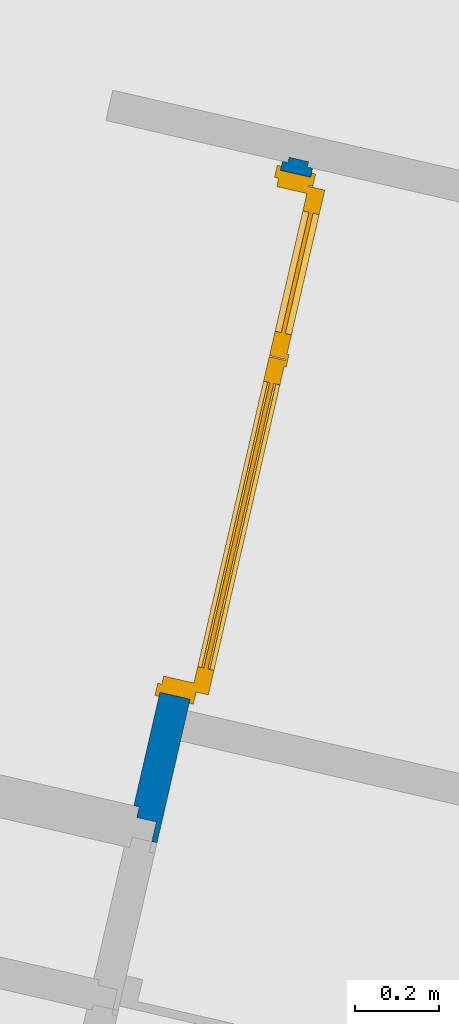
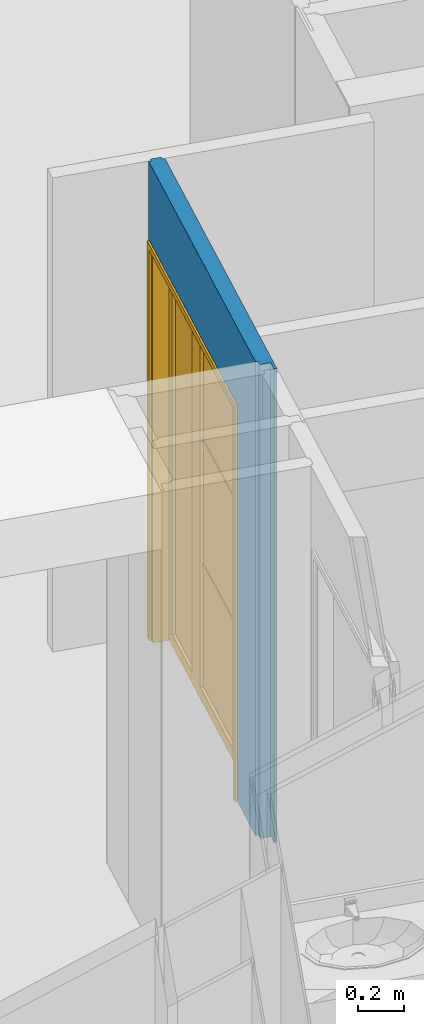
# One storey, part 29 of 91: 1 door, 1 wall, 1 opening.
"""IFC2X3 building model written with IfcOpenShell, lengths in metres."""

from ifc_helpers import new_model, entity, si_unit, converted_unit, derived_unit, money_unit, direction, frame, origin_with_axes, place, context, subcontext, project, spatial, faceted_brep, source, transform, mapped, material, material_list, type_object, element, fill, save


model = new_model("IFC2X3")

# Units and contexts
model_context = context("Model", 3, precision=1e-05, world=origin_with_axes(), true_north=direction((0.0, 1.0)))
body_context = subcontext(model_context, "Body", "Model", "MODEL_VIEW")
ifc_project = project(units=[si_unit("LENGTHUNIT", "METRE"), si_unit("AREAUNIT", "SQUARE_METRE"), si_unit("VOLUMEUNIT", "CUBIC_METRE"), converted_unit("PLANEANGLEUNIT", "DEGREE", entity("IfcPlaneAngleMeasure", 0.0174532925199), si_unit("PLANEANGLEUNIT", "RADIAN"), dimensions=[0, 0, 0, 0, 0, 0, 0]), si_unit("SOLIDANGLEUNIT", "STERADIAN"), money_unit("EUR"), converted_unit("TIMEUNIT", "Year", entity("IfcTimeMeasure", 31556926.0), si_unit("TIMEUNIT", "SECOND"), dimensions=[0, 0, 1, 0, 0, 0, 0]), si_unit("MASSUNIT", "GRAM", prefix="KILO"), si_unit("THERMODYNAMICTEMPERATUREUNIT", "DEGREE_CELSIUS"), si_unit("LUMINOUSINTENSITYUNIT", "LUMEN"), si_unit("ENERGYUNIT", "JOULE", prefix="MEGA"), derived_unit("THERMALCONDUCTANCEUNIT", [(si_unit("POWERUNIT", "WATT"), 1), (si_unit("LENGTHUNIT", "METRE"), -1), (si_unit("THERMODYNAMICTEMPERATUREUNIT", "KELVIN"), -1)]), derived_unit("SPECIFICHEATCAPACITYUNIT", [(si_unit("ENERGYUNIT", "JOULE"), 1), (si_unit("MASSUNIT", "GRAM", prefix="KILO"), -1), (si_unit("THERMODYNAMICTEMPERATUREUNIT", "KELVIN"), -1)]), derived_unit("MASSDENSITYUNIT", [(si_unit("MASSUNIT", "GRAM", prefix="KILO"), 1), (si_unit("VOLUMEUNIT", "CUBIC_METRE"), -1)])], contexts=[model_context])

# Site, building, storey
site_placement = place(None, origin_with_axes())
site = spatial("IfcSite", under=ifc_project, at=site_placement, Name="Site", CompositionType="ELEMENT")
building_placement = place(site_placement, origin_with_axes())
building = spatial("IfcBuilding", under=site, at=building_placement, Name="Bâtiment", CompositionType="ELEMENT")
storey_placement = place(building_placement, frame((0.0, 0.0, 5.44), z_axis=(0.0, 0.0, 1.0), x_axis=(1.0, 0.0, 0.0)))
storey = spatial("IfcBuildingStorey", under=building, at=storey_placement, Name="R+2", CompositionType="ELEMENT", Elevation=5.44)

# Wall, opening, door
ifc_material_1 = material(Name="Finition int - Plaque de plâtre")
ifc_material_2 = material(Name="Isolation - Laine de roche")
ifc_material_list = material_list([ifc_material_1, ifc_material_2, ifc_material_1])
wall_type = type_object("IfcWallType", Name="3 - Cloison 72mm Placostil 74", PredefinedType="USERDEFINED")
wall_placement = place(storey_placement, frame((-5.19772895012, 13.9114875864, 0.0), z_axis=(0.0, 0.0, 1.0), x_axis=(-0.224876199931, -0.97438734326, 0.0)))
wall = element("IfcWall", 1, at=wall_placement, inside=storey, type_object=wall_type, material=ifc_material_list, Name="Cloison Placostil 72/48", ObjectType="PARTITIONING", context=body_context, shape_type="Brep", body=[
    faceted_brep([(1.30209647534, 0.074, 0.0), (1.30209647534, 0.074, 2.08), (0.0220964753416, 0.074, 2.08), (0.0220964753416, 0.074, 0.0), (0.0, 0.074, 0.0), (0.0, 0.074, 2.5), (1.6539999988, 0.074, 2.5), (1.6539999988, 0.074, 0.0), (1.30209647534, 0.061, 0.0), (1.30209647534, 0.061, 2.08), (0.0220964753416, 0.061, 2.08), (0.0220964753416, 0.061, 0.0), (0.0, 0.061, 0.0), (0.0, 0.061, 2.5), (1.6539999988, 0.061, 2.5), (1.6539999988, 0.061, 0.0)], [[[0, 1, 2, 3, 4, 5, 6, 7]], [[1, 0, 8, 9]], [[2, 1, 9, 10]], [[3, 2, 10, 11]], [[3, 11, 12, 4]], [[5, 4, 12, 13]], [[14, 6, 5, 13]], [[15, 7, 6, 14]], [[8, 0, 7, 15]], [[9, 8, 15, 14, 13, 12, 11, 10]]]),
    faceted_brep([(1.30209647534, 0.061, 0.0), (1.30209647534, 0.061, 2.08), (0.0220964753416, 0.061, 2.08), (0.0220964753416, 0.061, 0.0), (-0.013000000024, 0.061, 0.0), (-0.013000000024, 0.061, 2.5), (1.6059999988, 0.061, 2.5), (1.6059999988, 0.061, 0.0), (1.30209647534, 0.013, 0.0), (1.30209647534, 0.013, 2.08), (0.0220964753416, 0.013, 2.08), (0.0220964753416, 0.013, 0.0), (-0.0130000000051, 0.013, 0.0), (-0.0130000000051, 0.013, 2.5), (1.60599999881, 0.013, 2.5), (1.60599999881, 0.013, 0.0)], [[[0, 1, 2, 3, 4, 5, 6, 7]], [[1, 0, 8, 9]], [[2, 1, 9, 10]], [[3, 2, 10, 11]], [[3, 11, 12, 4]], [[4, 12, 13, 5]], [[6, 5, 13, 14]], [[7, 6, 14, 15]], [[8, 0, 7, 15]], [[9, 8, 15, 14, 13, 12, 11, 10]]]),
    faceted_brep([(1.30209647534, 0.013, 0.0), (1.30209647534, 0.013, 2.08), (0.0220964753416, 0.013, 2.08), (0.0220964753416, 0.013, 0.0), (0.0, 0.013, 0.0), (0.0, 0.013, 2.5), (1.57999999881, 0.013, 2.5), (1.57999999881, 0.013, 0.0), (1.30209647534, 0.0, 0.0), (1.30209647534, 0.0, 2.08), (0.0220964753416, 0.0, 2.08), (0.0220964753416, 0.0, 0.0), (0.0, 0.0, 0.0), (0.0, 0.0, 2.5), (1.57999999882, 0.0, 2.5), (1.57999999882, 0.0, 0.0)], [[[0, 1, 2, 3, 4, 5, 6, 7]], [[1, 0, 8, 9]], [[2, 1, 9, 10]], [[3, 2, 10, 11]], [[3, 11, 12, 4]], [[4, 12, 13, 5]], [[6, 5, 13, 14]], [[7, 6, 14, 15]], [[8, 0, 7, 15]], [[9, 8, 15, 14, 13, 12, 11, 10]]]),
])
opening_placement = place(wall_placement, frame((0.662096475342, 0.0, 0.0), z_axis=(0.0, 0.0, 1.0), x_axis=(1.0, 0.0, 0.0)))
opening = element("IfcOpeningElement", 2, at=opening_placement, cuts=wall, Name="Por-002", context=body_context, shape_type="Brep", body=[
    faceted_brep([(0.64, -0.074, 0.0), (-0.64, -0.074, 0.0), (-0.64, 0.074, 0.0), (0.64, 0.074, 0.0), (0.64, -0.074, 2.08), (-0.64, -0.074, 2.08), (-0.64, 0.074, 2.08), (0.64, 0.074, 2.08)], [[[0, 1, 2, 3]], [[0, 4, 5, 1]], [[1, 5, 6, 2]], [[3, 2, 6, 7]], [[4, 0, 3, 7]], [[5, 4, 7, 6]]]),
])
door_style = type_object("IfcDoorStyle", Name="Porte int générique 2019", ConstructionType="NOTDEFINED", OperationType="DOUBLE_DOOR_SINGLE_SWING", ParameterTakesPrecedence=False, Sizeable=False)
shared_shape = source(origin_with_axes(), body_context, "Body", "Brep", [
    faceted_brep([(0.64, -0.006, 0.0), (0.6, -0.006, 0.0), (0.6, -0.006, 2.04), (-0.6, -0.006, 2.04), (-0.6, -0.006, 0.0), (-0.64, -0.006, 0.0), (-0.64, -0.006, 2.08), (0.64, -0.006, 2.08), (0.64, -0.08, 0.0), (0.6, -0.08, 0.0), (0.6, -0.08, 2.04), (-0.6, -0.08, 2.04), (-0.6, -0.08, 0.0), (-0.64, -0.08, 0.0), (-0.64, -0.08, 2.08), (0.64, -0.08, 2.08)], [[[0, 1, 2, 3, 4, 5, 6, 7]], [[0, 8, 9, 1]], [[1, 9, 10, 2]], [[2, 10, 11, 3]], [[3, 11, 12, 4]], [[5, 4, 12, 13]], [[14, 6, 5, 13]], [[15, 7, 6, 14]], [[8, 0, 7, 15]], [[9, 8, 15, 14, 13, 12, 11, 10]]]),
    faceted_brep([(0.65, -0.006, 0.0), (0.65, 0.004, 0.0), (0.65, 0.004, 2.09), (0.65, -0.006, 2.09), (0.62, -0.006, 0.0), (0.62, 0.004, 0.0), (0.62, 0.004, 2.06), (-0.62, 0.004, 2.06), (-0.62, 0.004, 0.0), (-0.65, 0.004, 0.0), (-0.65, 0.004, 2.09), (-0.65, -0.006, 2.09), (-0.65, -0.006, 0.0), (-0.62, -0.006, 0.0), (-0.62, -0.006, 2.06), (0.62, -0.006, 2.06)], [[[0, 1, 2, 3]], [[0, 4, 5, 1]], [[1, 5, 6, 7, 8, 9, 10, 2]], [[3, 2, 10, 11]], [[4, 0, 3, 11, 12, 13, 14, 15]], [[5, 4, 15, 6]], [[6, 15, 14, 7]], [[7, 14, 13, 8]], [[12, 9, 8, 13]], [[11, 10, 9, 12]]]),
    faceted_brep([(0.65, -0.09, 0.0), (0.65, -0.08, 0.0), (0.65, -0.08, 2.09), (0.65, -0.09, 2.09), (0.62, -0.09, 0.0), (0.62, -0.08, 0.0), (0.62, -0.08, 2.06), (-0.62, -0.08, 2.06), (-0.62, -0.08, 0.0), (-0.65, -0.08, 0.0), (-0.65, -0.08, 2.09), (-0.65, -0.09, 2.09), (-0.65, -0.09, 0.0), (-0.62, -0.09, 0.0), (-0.62, -0.09, 2.06), (0.62, -0.09, 2.06)], [[[0, 1, 2, 3]], [[0, 4, 5, 1]], [[1, 5, 6, 7, 8, 9, 10, 2]], [[3, 2, 10, 11]], [[4, 0, 3, 11, 12, 13, 14, 15]], [[5, 4, 15, 6]], [[6, 15, 14, 7]], [[7, 14, 13, 8]], [[12, 9, 8, 13]], [[11, 10, 9, 12]]]),
    faceted_brep([(-0.6175, 0.024, 2.06), (-0.2025, 0.024, 2.06), (-0.2025, 0.024, 0.0), (-0.6175, 0.024, 0.0), (-0.5575, 0.024, 0.06), (-0.2625, 0.024, 0.06), (-0.2625, 0.024, 2.0), (-0.5575, 0.024, 2.0), (-0.6175, 0.014, 2.06), (-0.2025, 0.014, 2.06), (-0.2025, 0.014, 0.0), (-0.6175, 0.014, 0.0), (-0.5575, 0.014, 0.06), (-0.2625, 0.014, 0.06), (-0.2625, 0.014, 2.0), (-0.5575, 0.014, 2.0)], [[[0, 1, 2, 3], [4, 5, 6, 7]], [[0, 8, 9, 1]], [[1, 9, 10, 2]], [[2, 10, 11, 3]], [[3, 11, 8, 0]], [[12, 13, 5, 4]], [[13, 14, 6, 5]], [[14, 15, 7, 6]], [[15, 12, 4, 7]], [[10, 9, 8, 11], [12, 15, 14, 13]]]),
    faceted_brep([(-0.6175, 0.014, 2.06), (-0.2025, 0.014, 2.06), (-0.2025, 0.014, 0.0), (-0.6175, 0.014, 0.0), (-0.5575, 0.014, 0.06), (-0.2625, 0.014, 0.06), (-0.2625, 0.014, 2.0), (-0.5575, 0.014, 2.0), (-0.6175, 0.004, 2.06), (-0.2025, 0.004, 2.06), (-0.2025, 0.004, 0.0), (-0.6175, 0.004, 0.0), (-0.5575, 0.004, 0.06), (-0.2625, 0.004, 0.06), (-0.2625, 0.004, 2.0), (-0.5575, 0.004, 2.0)], [[[0, 1, 2, 3], [4, 5, 6, 7]], [[0, 8, 9, 1]], [[1, 9, 10, 2]], [[2, 10, 11, 3]], [[3, 11, 8, 0]], [[12, 13, 5, 4]], [[13, 14, 6, 5]], [[14, 15, 7, 6]], [[15, 12, 4, 7]], [[10, 9, 8, 11], [12, 15, 14, 13]]]),
    faceted_brep([(-0.6175, 0.034, 0.0), (-0.2025, 0.034, 0.0), (-0.2025, 0.024, 0.0), (-0.6175, 0.024, 0.0), (-0.6175, 0.034, 2.06), (-0.2025, 0.034, 2.06), (-0.5575, 0.034, 0.06), (-0.2625, 0.034, 0.06), (-0.2625, 0.034, 2.0), (-0.5575, 0.034, 2.0), (-0.2025, 0.024, 2.06), (-0.6175, 0.024, 2.06), (-0.5575, 0.024, 0.06), (-0.5575, 0.024, 2.0), (-0.2625, 0.024, 2.0), (-0.2625, 0.024, 0.06)], [[[0, 1, 2, 3]], [[0, 4, 5, 1], [6, 7, 8, 9]], [[1, 5, 10, 2]], [[3, 2, 10, 11], [12, 13, 14, 15]], [[4, 0, 3, 11]], [[5, 4, 11, 10]], [[7, 6, 12, 15]], [[8, 7, 15, 14]], [[9, 8, 14, 13]], [[6, 9, 13, 12]]]),
    faceted_brep([(-0.6175, 0.004, 0.0), (-0.2025, 0.004, 0.0), (-0.2025, -0.006, 0.0), (-0.6175, -0.006, 0.0), (-0.6175, 0.004, 2.06), (-0.2025, 0.004, 2.06), (-0.5575, 0.004, 0.06), (-0.2625, 0.004, 0.06), (-0.2625, 0.004, 2.0), (-0.5575, 0.004, 2.0), (-0.2025, -0.006, 2.06), (-0.6175, -0.006, 2.06), (-0.5575, -0.006, 0.06), (-0.5575, -0.006, 2.0), (-0.2625, -0.006, 2.0), (-0.2625, -0.006, 0.06)], [[[0, 1, 2, 3]], [[0, 4, 5, 1], [6, 7, 8, 9]], [[1, 5, 10, 2]], [[3, 2, 10, 11], [12, 13, 14, 15]], [[4, 0, 3, 11]], [[5, 4, 11, 10]], [[7, 6, 12, 15]], [[8, 7, 15, 14]], [[9, 8, 14, 13]], [[6, 9, 13, 12]]]),
    faceted_brep([(-0.5575, 0.019, 0.06), (-0.2625, 0.019, 0.06), (-0.2625, 0.009, 0.06), (-0.5575, 0.009, 0.06), (-0.5575, 0.019, 2.0), (-0.2625, 0.019, 2.0), (-0.2625, 0.009, 2.0), (-0.5575, 0.009, 2.0)], [[[0, 1, 2, 3]], [[0, 4, 5, 1]], [[1, 5, 6, 2]], [[3, 2, 6, 7]], [[4, 0, 3, 7]], [[5, 4, 7, 6]]]),
    faceted_brep([(0.62, 0.024, 2.06), (0.62, 0.024, 0.0), (-0.2, 0.024, 0.0), (-0.2, 0.024, 2.06), (0.56, 0.024, 0.693333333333), (-0.14, 0.024, 0.693333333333), (-0.14, 0.024, 0.06), (0.56, 0.024, 0.06), (0.56, 0.024, 0.713333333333), (0.56, 0.024, 1.34666666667), (-0.14, 0.024, 1.34666666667), (-0.14, 0.024, 0.713333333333), (-0.14, 0.024, 1.36666666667), (0.56, 0.024, 1.36666666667), (0.56, 0.024, 2.0), (-0.14, 0.024, 2.0), (0.62, 0.014, 2.06), (0.62, 0.014, 0.0), (-0.2, 0.014, 0.0), (-0.2, 0.014, 2.06), (0.56, 0.014, 0.693333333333), (-0.14, 0.014, 0.693333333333), (-0.14, 0.014, 0.06), (0.56, 0.014, 0.06), (0.56, 0.014, 1.34666666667), (0.56, 0.014, 0.713333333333), (-0.14, 0.014, 1.34666666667), (-0.14, 0.014, 0.713333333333), (-0.14, 0.014, 1.36666666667), (0.56, 0.014, 1.36666666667), (0.56, 0.014, 2.0), (-0.14, 0.014, 2.0)], [[[0, 1, 2, 3], [4, 5, 6, 7], [8, 9, 10, 11], [12, 13, 14, 15]], [[1, 0, 16, 17]], [[2, 1, 17, 18]], [[3, 2, 18, 19]], [[0, 3, 19, 16]], [[5, 4, 20, 21]], [[6, 5, 21, 22]], [[7, 6, 22, 23]], [[4, 7, 23, 20]], [[24, 9, 8, 25]], [[26, 10, 9, 24]], [[27, 11, 10, 26]], [[25, 8, 11, 27]], [[28, 29, 13, 12]], [[29, 30, 14, 13]], [[30, 31, 15, 14]], [[31, 28, 12, 15]], [[18, 17, 16, 19], [20, 23, 22, 21], [26, 24, 25, 27], [28, 31, 30, 29]]]),
    faceted_brep([(0.62, 0.014, 2.06), (0.62, 0.014, 0.0), (-0.2, 0.014, 0.0), (-0.2, 0.014, 2.06), (0.56, 0.014, 0.693333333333), (-0.14, 0.014, 0.693333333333), (-0.14, 0.014, 0.06), (0.56, 0.014, 0.06), (0.56, 0.014, 0.713333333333), (0.56, 0.014, 1.34666666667), (-0.14, 0.014, 1.34666666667), (-0.14, 0.014, 0.713333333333), (-0.14, 0.014, 1.36666666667), (0.56, 0.014, 1.36666666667), (0.56, 0.014, 2.0), (-0.14, 0.014, 2.0), (0.62, 0.004, 2.06), (0.62, 0.004, 0.0), (-0.2, 0.004, 0.0), (-0.2, 0.004, 2.06), (0.56, 0.004, 0.693333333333), (-0.14, 0.004, 0.693333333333), (-0.14, 0.004, 0.06), (0.56, 0.004, 0.06), (0.56, 0.004, 1.34666666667), (0.56, 0.004, 0.713333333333), (-0.14, 0.004, 1.34666666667), (-0.14, 0.004, 0.713333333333), (-0.14, 0.004, 1.36666666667), (0.56, 0.004, 1.36666666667), (0.56, 0.004, 2.0), (-0.14, 0.004, 2.0)], [[[0, 1, 2, 3], [4, 5, 6, 7], [8, 9, 10, 11], [12, 13, 14, 15]], [[1, 0, 16, 17]], [[2, 1, 17, 18]], [[3, 2, 18, 19]], [[0, 3, 19, 16]], [[5, 4, 20, 21]], [[6, 5, 21, 22]], [[7, 6, 22, 23]], [[4, 7, 23, 20]], [[24, 9, 8, 25]], [[26, 10, 9, 24]], [[27, 11, 10, 26]], [[25, 8, 11, 27]], [[28, 29, 13, 12]], [[29, 30, 14, 13]], [[30, 31, 15, 14]], [[31, 28, 12, 15]], [[18, 17, 16, 19], [20, 23, 22, 21], [26, 24, 25, 27], [28, 31, 30, 29]]]),
    faceted_brep([(0.62, 0.034, 0.0), (0.62, 0.024, 0.0), (-0.2, 0.024, 0.0), (-0.2, 0.034, 0.0), (0.62, 0.034, 2.06), (0.62, 0.024, 2.06), (-0.2, 0.024, 2.06), (0.56, 0.024, 0.06), (-0.14, 0.024, 0.06), (-0.14, 0.024, 2.0), (0.56, 0.024, 2.0), (-0.2, 0.034, 2.06), (0.56, 0.034, 0.06), (0.56, 0.034, 2.0), (-0.14, 0.034, 2.0), (-0.14, 0.034, 0.06)], [[[0, 1, 2, 3]], [[4, 5, 1, 0]], [[1, 5, 6, 2], [7, 8, 9, 10]], [[3, 2, 6, 11]], [[0, 3, 11, 4], [12, 13, 14, 15]], [[11, 6, 5, 4]], [[15, 8, 7, 12]], [[14, 9, 8, 15]], [[13, 10, 9, 14]], [[12, 7, 10, 13]]]),
    faceted_brep([(0.62, 0.004, 0.0), (0.62, -0.006, 0.0), (-0.2, -0.006, 0.0), (-0.2, 0.004, 0.0), (0.62, 0.004, 2.06), (0.62, -0.006, 2.06), (-0.2, -0.006, 2.06), (0.56, -0.006, 0.06), (-0.14, -0.006, 0.06), (-0.14, -0.006, 2.0), (0.56, -0.006, 2.0), (-0.2, 0.004, 2.06), (0.56, 0.004, 0.06), (0.56, 0.004, 2.0), (-0.14, 0.004, 2.0), (-0.14, 0.004, 0.06)], [[[0, 1, 2, 3]], [[4, 5, 1, 0]], [[1, 5, 6, 2], [7, 8, 9, 10]], [[3, 2, 6, 11]], [[0, 3, 11, 4], [12, 13, 14, 15]], [[11, 6, 5, 4]], [[15, 8, 7, 12]], [[14, 9, 8, 15]], [[13, 10, 9, 14]], [[12, 7, 10, 13]]]),
    faceted_brep([(0.56, 0.019, 0.06), (0.56, 0.009, 0.06), (-0.14, 0.009, 0.06), (-0.14, 0.019, 0.06), (0.56, 0.019, 0.693333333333), (0.56, 0.009, 0.693333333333), (-0.14, 0.009, 0.693333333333), (-0.14, 0.019, 0.693333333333)], [[[0, 1, 2, 3]], [[4, 5, 1, 0]], [[1, 5, 6, 2]], [[3, 2, 6, 7]], [[0, 3, 7, 4]], [[7, 6, 5, 4]]]),
    faceted_brep([(0.56, 0.019, 0.713333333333), (0.56, 0.009, 0.713333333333), (-0.14, 0.009, 0.713333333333), (-0.14, 0.019, 0.713333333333), (0.56, 0.019, 1.34666666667), (0.56, 0.009, 1.34666666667), (-0.14, 0.009, 1.34666666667), (-0.14, 0.019, 1.34666666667)], [[[0, 1, 2, 3]], [[4, 5, 1, 0]], [[1, 5, 6, 2]], [[3, 2, 6, 7]], [[0, 3, 7, 4]], [[7, 6, 5, 4]]]),
    faceted_brep([(0.56, 0.019, 1.36666666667), (0.56, 0.009, 1.36666666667), (-0.14, 0.009, 1.36666666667), (-0.14, 0.019, 1.36666666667), (0.56, 0.019, 2.0), (0.56, 0.009, 2.0), (-0.14, 0.009, 2.0), (-0.14, 0.019, 2.0)], [[[0, 1, 2, 3]], [[4, 5, 1, 0]], [[1, 5, 6, 2]], [[3, 2, 6, 7]], [[0, 3, 7, 4]], [[7, 6, 5, 4]]]),
    faceted_brep([(-0.185, 0.039, 0.0), (-0.215, 0.039, 0.0), (-0.215, 0.039, 2.06), (-0.185, 0.039, 2.06), (-0.185, 0.034, 0.0), (-0.215, 0.034, 0.0), (-0.215, 0.034, 2.06), (-0.185, 0.034, 2.06)], [[[0, 1, 2, 3]], [[1, 0, 4, 5]], [[2, 1, 5, 6]], [[3, 2, 6, 7]], [[0, 3, 7, 4]], [[5, 4, 7, 6]]]),
])
door_placement = place(opening_placement, frame((-0.6, 0.0, 0.0), z_axis=(0.0, 0.0, 1.0), x_axis=(1.0, 0.0, 0.0)))
door = element("IfcDoor", 3, at=door_placement, inside=storey, type_object=door_style, Name="Por-002", ObjectType="DOOR", OverallHeight=2.04, OverallWidth=1.2, context=body_context, shape_type="MappedRepresentation", body=[
    mapped(shared_shape, transform((0.6, 0.08, 0.0))),
])
fill(opening, door)

save(model, "model.ifc")
